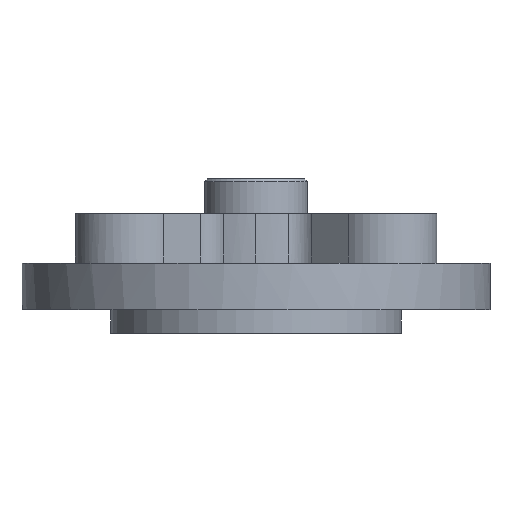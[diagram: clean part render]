
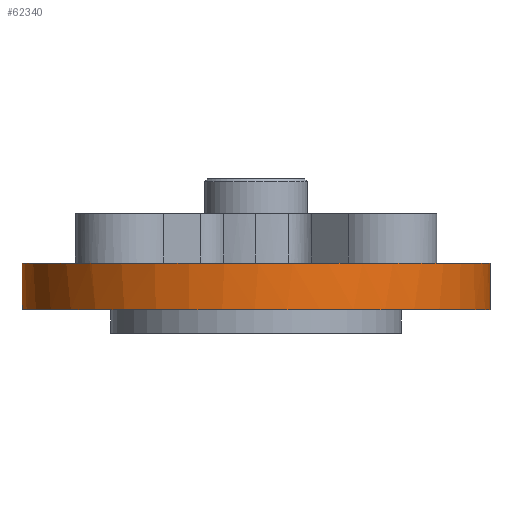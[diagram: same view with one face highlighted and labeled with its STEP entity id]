
A CAD part, front view. The second image highlights one B-rep face of the part: STEP entity #62340.
In plain terms, the highlighted free-form (B-spline) face has degree [1, 2] with [2, 9] control points.
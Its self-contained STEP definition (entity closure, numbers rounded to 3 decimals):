
#10360 = CARTESIAN_POINT ('', (35.568, 35.142, 15.));
#10370 = VERTEX_POINT ('', #10360);
#10380 = CARTESIAN_POINT ('', (35.142, 35.568, 15.));
#10390 = VERTEX_POINT ('', #10380);
#10400 = CARTESIAN_POINT ('', (35.568, 35.142, 15.));
#10410 = CARTESIAN_POINT ('', (35.356, 35.356, 15.));
#10420 = CARTESIAN_POINT ('', (35.142, 35.568, 15.));
#10430 = (
   BOUNDED_CURVE ()
   B_SPLINE_CURVE (2, (#10400, #10410, #10420), .UNSPECIFIED., .F., .U.)
   B_SPLINE_CURVE_WITH_KNOTS ((3, 3), (0.124, 0.126), .UNSPECIFIED.)
   CURVE ()
   GEOMETRIC_REPRESENTATION_ITEM ()
   RATIONAL_B_SPLINE_CURVE ((0.854, 0.854, 0.854))
   REPRESENTATION_ITEM ('')
);
#10440 = EDGE_CURVE ('', #10370, #10390, #10430, .T.);
#18370 = CARTESIAN_POINT ('', (-35.142, 35.568, 15.));
#18380 = VERTEX_POINT ('', #18370);
#18390 = CARTESIAN_POINT ('', (-35.568, 35.142, 15.));
#18400 = VERTEX_POINT ('', #18390);
#18410 = CARTESIAN_POINT ('', (-35.142, 35.568, 15.));
#18420 = CARTESIAN_POINT ('', (-35.356, 35.356, 15.));
#18430 = CARTESIAN_POINT ('', (-35.568, 35.142, 15.));
#18440 = (
   BOUNDED_CURVE ()
   B_SPLINE_CURVE (2, (#18410, #18420, #18430), .UNSPECIFIED., .F., .U.)
   B_SPLINE_CURVE_WITH_KNOTS ((3, 3), (0.374, 0.376), .UNSPECIFIED.)
   CURVE ()
   GEOMETRIC_REPRESENTATION_ITEM ()
   RATIONAL_B_SPLINE_CURVE ((0.854, 0.854, 0.854))
   REPRESENTATION_ITEM ('')
);
#18450 = EDGE_CURVE ('', #18380, #18400, #18440, .T.);
#34630 = CARTESIAN_POINT ('', (50., 0., 5.));
#34640 = VERTEX_POINT ('', #34630);
#34650 = CARTESIAN_POINT ('', (50., 0., 5.));
#34660 = CARTESIAN_POINT ('', (50., 50., 5.));
#34670 = CARTESIAN_POINT ('', (0., 50., 5.));
#34680 = CARTESIAN_POINT ('', (-50., 50., 5.));
#34690 = CARTESIAN_POINT ('', (-50., 0., 5.));
#34700 = CARTESIAN_POINT ('', (-50., -50., 5.));
#34710 = CARTESIAN_POINT ('', (0., -50., 5.));
#34720 = CARTESIAN_POINT ('', (50., -50., 5.));
#34730 = CARTESIAN_POINT ('', (50., 0., 5.));
#34740 = (
   BOUNDED_CURVE ()
   B_SPLINE_CURVE (2, (#34650, #34660, #34670, #34680, #34690, #34700, #34710, #34720, #34730), .UNSPECIFIED., .T., .U.)
   B_SPLINE_CURVE_WITH_KNOTS ((3, 2, 2, 2, 3), (0., 0.25, 0.5, 0.75, 1.), .UNSPECIFIED.)
   CURVE ()
   GEOMETRIC_REPRESENTATION_ITEM ()
   RATIONAL_B_SPLINE_CURVE ((1., 0.707, 1., 0.707, 1., 0.707, 1., 0.707, 1.))
   REPRESENTATION_ITEM ('')
);
#34750 = EDGE_CURVE ('', #34640, #34640, #34740, .T.);
#57980 = CARTESIAN_POINT ('', (35.142, -35.568, 15.));
#57990 = VERTEX_POINT ('', #57980);
#58000 = CARTESIAN_POINT ('', (35.568, -35.142, 15.));
#58010 = VERTEX_POINT ('', #58000);
#58020 = CARTESIAN_POINT ('', (35.142, -35.568, 15.));
#58030 = CARTESIAN_POINT ('', (35.356, -35.356, 15.));
#58040 = CARTESIAN_POINT ('', (35.568, -35.142, 15.));
#58050 = (
   BOUNDED_CURVE ()
   B_SPLINE_CURVE (2, (#58020, #58030, #58040), .UNSPECIFIED., .F., .U.)
   B_SPLINE_CURVE_WITH_KNOTS ((3, 3), (0.874, 0.876), .UNSPECIFIED.)
   CURVE ()
   GEOMETRIC_REPRESENTATION_ITEM ()
   RATIONAL_B_SPLINE_CURVE ((0.854, 0.854, 0.854))
   REPRESENTATION_ITEM ('')
);
#58060 = EDGE_CURVE ('', #57990, #58010, #58050, .T.);
#59180 = CARTESIAN_POINT ('', (-35.142, -35.568, 15.));
#59190 = VERTEX_POINT ('', #59180);
#59260 = CARTESIAN_POINT ('', (-35.142, -35.568, 15.));
#59270 = CARTESIAN_POINT ('', (-20.534, -50., 15.));
#59280 = CARTESIAN_POINT ('', (0., -50., 15.));
#59290 = CARTESIAN_POINT ('', (20.534, -50., 15.));
#59300 = CARTESIAN_POINT ('', (35.142, -35.568, 15.));
#59310 = (
   BOUNDED_CURVE ()
   B_SPLINE_CURVE (2, (#59260, #59270, #59280, #59290, #59300), .UNSPECIFIED., .F., .U.)
   B_SPLINE_CURVE_WITH_KNOTS ((3, 2, 3), (0.626, 0.75, 0.874), .UNSPECIFIED.)
   CURVE ()
   GEOMETRIC_REPRESENTATION_ITEM ()
   RATIONAL_B_SPLINE_CURVE ((0.854, 0.855, 1., 0.855, 0.854))
   REPRESENTATION_ITEM ('')
);
#59320 = EDGE_CURVE ('', #59190, #57990, #59310, .T.);
#59480 = CARTESIAN_POINT ('', (-35.568, -35.142, 15.));
#59490 = VERTEX_POINT ('', #59480);
#59500 = CARTESIAN_POINT ('', (-35.568, -35.142, 15.));
#59510 = CARTESIAN_POINT ('', (-35.356, -35.356, 15.));
#59520 = CARTESIAN_POINT ('', (-35.142, -35.568, 15.));
#59530 = (
   BOUNDED_CURVE ()
   B_SPLINE_CURVE (2, (#59500, #59510, #59520), .UNSPECIFIED., .F., .U.)
   B_SPLINE_CURVE_WITH_KNOTS ((3, 3), (0.624, 0.626), .UNSPECIFIED.)
   CURVE ()
   GEOMETRIC_REPRESENTATION_ITEM ()
   RATIONAL_B_SPLINE_CURVE ((0.854, 0.854, 0.854))
   REPRESENTATION_ITEM ('')
);
#59540 = EDGE_CURVE ('', #59490, #59190, #59530, .T.);
#60820 = CARTESIAN_POINT ('', (-35.568, 35.142, 15.));
#60830 = CARTESIAN_POINT ('', (-50., 20.534, 15.));
#60840 = CARTESIAN_POINT ('', (-50., 0., 15.));
#60850 = CARTESIAN_POINT ('', (-50., -20.534, 15.));
#60860 = CARTESIAN_POINT ('', (-35.568, -35.142, 15.));
#60870 = (
   BOUNDED_CURVE ()
   B_SPLINE_CURVE (2, (#60820, #60830, #60840, #60850, #60860), .UNSPECIFIED., .F., .U.)
   B_SPLINE_CURVE_WITH_KNOTS ((3, 2, 3), (0.376, 0.5, 0.624), .UNSPECIFIED.)
   CURVE ()
   GEOMETRIC_REPRESENTATION_ITEM ()
   RATIONAL_B_SPLINE_CURVE ((0.854, 0.855, 1., 0.855, 0.854))
   REPRESENTATION_ITEM ('')
);
#60880 = EDGE_CURVE ('', #18400, #59490, #60870, .T.);
#61630 = CARTESIAN_POINT ('', (35.142, 35.568, 15.));
#61640 = CARTESIAN_POINT ('', (20.534, 50., 15.));
#61650 = CARTESIAN_POINT ('', (0., 50., 15.));
#61660 = CARTESIAN_POINT ('', (-20.534, 50., 15.));
#61670 = CARTESIAN_POINT ('', (-35.142, 35.568, 15.));
#61680 = (
   BOUNDED_CURVE ()
   B_SPLINE_CURVE (2, (#61630, #61640, #61650, #61660, #61670), .UNSPECIFIED., .F., .U.)
   B_SPLINE_CURVE_WITH_KNOTS ((3, 2, 3), (0.126, 0.25, 0.374), .UNSPECIFIED.)
   CURVE ()
   GEOMETRIC_REPRESENTATION_ITEM ()
   RATIONAL_B_SPLINE_CURVE ((0.854, 0.855, 1., 0.855, 0.854))
   REPRESENTATION_ITEM ('')
);
#61690 = EDGE_CURVE ('', #10390, #18380, #61680, .T.);
#61850 = ORIENTED_EDGE ('', *, *, #10440, .F.);
#61860 = CARTESIAN_POINT ('', (50., 0., 15.));
#61870 = VERTEX_POINT ('', #61860);
#61880 = CARTESIAN_POINT ('', (50., 0., 15.));
#61890 = CARTESIAN_POINT ('', (50., 20.534, 15.));
#61900 = CARTESIAN_POINT ('', (35.568, 35.142, 15.));
#61910 = (
   BOUNDED_CURVE ()
   B_SPLINE_CURVE (2, (#61880, #61890, #61900), .UNSPECIFIED., .F., .U.)
   B_SPLINE_CURVE_WITH_KNOTS ((3, 3), (0., 0.124), .UNSPECIFIED.)
   CURVE ()
   GEOMETRIC_REPRESENTATION_ITEM ()
   RATIONAL_B_SPLINE_CURVE ((1., 0.855, 0.854))
   REPRESENTATION_ITEM ('')
);
#61920 = EDGE_CURVE ('', #61870, #10370, #61910, .T.);
#61930 = ORIENTED_EDGE ('', *, *, #61920, .F.);
#61940 = CARTESIAN_POINT ('', (50., 0., 15.));
#61950 = CARTESIAN_POINT ('', (50., 0., 5.));
#61960 = B_SPLINE_CURVE_WITH_KNOTS ('', 1, (#61940, #61950), .UNSPECIFIED., .F., .U., (2, 2), (0., 1.), .UNSPECIFIED.);
#61970 = EDGE_CURVE ('', #61870, #34640, #61960, .T.);
#61980 = ORIENTED_EDGE ('', *, *, #61970, .T.);
#61990 = ORIENTED_EDGE ('', *, *, #34750, .T.);
#62000 = ORIENTED_EDGE ('', *, *, #61970, .F.);
#62010 = CARTESIAN_POINT ('', (35.568, -35.142, 15.));
#62020 = CARTESIAN_POINT ('', (50., -20.534, 15.));
#62030 = CARTESIAN_POINT ('', (50., 0., 15.));
#62040 = (
   BOUNDED_CURVE ()
   B_SPLINE_CURVE (2, (#62010, #62020, #62030), .UNSPECIFIED., .F., .U.)
   B_SPLINE_CURVE_WITH_KNOTS ((3, 3), (0.876, 1.), .UNSPECIFIED.)
   CURVE ()
   GEOMETRIC_REPRESENTATION_ITEM ()
   RATIONAL_B_SPLINE_CURVE ((0.854, 0.855, 1.))
   REPRESENTATION_ITEM ('')
);
#62050 = EDGE_CURVE ('', #58010, #61870, #62040, .T.);
#62060 = ORIENTED_EDGE ('', *, *, #62050, .F.);
#62070 = ORIENTED_EDGE ('', *, *, #58060, .F.);
#62080 = ORIENTED_EDGE ('', *, *, #59320, .F.);
#62090 = ORIENTED_EDGE ('', *, *, #59540, .F.);
#62100 = ORIENTED_EDGE ('', *, *, #60880, .F.);
#62110 = ORIENTED_EDGE ('', *, *, #18450, .F.);
#62120 = ORIENTED_EDGE ('', *, *, #61690, .F.);
#62130 = EDGE_LOOP ('', (#61850, #61930, #61980, #61990, #62000, #62060, #62070, #62080, #62090, #62100, #62110, #62120));
#62140 = FACE_OUTER_BOUND ('', #62130, .T.);
#62150 = CARTESIAN_POINT ('', (50., 0., 15.));
#62160 = CARTESIAN_POINT ('', (50., 50., 15.));
#62170 = CARTESIAN_POINT ('', (0., 50., 15.));
#62180 = CARTESIAN_POINT ('', (-50., 50., 15.));
#62190 = CARTESIAN_POINT ('', (-50., 0., 15.));
#62200 = CARTESIAN_POINT ('', (-50., -50., 15.));
#62210 = CARTESIAN_POINT ('', (0., -50., 15.));
#62220 = CARTESIAN_POINT ('', (50., -50., 15.));
#62230 = CARTESIAN_POINT ('', (50., 0., 15.));
#62240 = CARTESIAN_POINT ('', (50., 0., 5.));
#62250 = CARTESIAN_POINT ('', (50., 50., 5.));
#62260 = CARTESIAN_POINT ('', (0., 50., 5.));
#62270 = CARTESIAN_POINT ('', (-50., 50., 5.));
#62280 = CARTESIAN_POINT ('', (-50., 0., 5.));
#62290 = CARTESIAN_POINT ('', (-50., -50., 5.));
#62300 = CARTESIAN_POINT ('', (0., -50., 5.));
#62310 = CARTESIAN_POINT ('', (50., -50., 5.));
#62320 = CARTESIAN_POINT ('', (50., 0., 5.));
#62330 = (
   BOUNDED_SURFACE ()
   B_SPLINE_SURFACE (1, 2, ((#62150, #62160, #62170, #62180, #62190, #62200, #62210, #62220, #62230), (#62240, #62250, #62260, #62270, #62280, #62290, #62300, #62310, #62320)), .UNSPECIFIED., .F., .T., .U.)
   B_SPLINE_SURFACE_WITH_KNOTS ((2, 2), (3, 2, 2, 2, 3), (0., 1.), (0., 0.25, 0.5, 0.75, 1.), .UNSPECIFIED.)
   SURFACE ()
   GEOMETRIC_REPRESENTATION_ITEM ()
   RATIONAL_B_SPLINE_SURFACE (((1., 0.707, 1., 0.707, 1., 0.707, 1., 0.707, 1.), (1., 0.707, 1., 0.707, 1., 0.707, 1., 0.707, 1.)))
   REPRESENTATION_ITEM ('')
);
#62340 = ADVANCED_FACE ('', (#62140), #62330, .T.);
